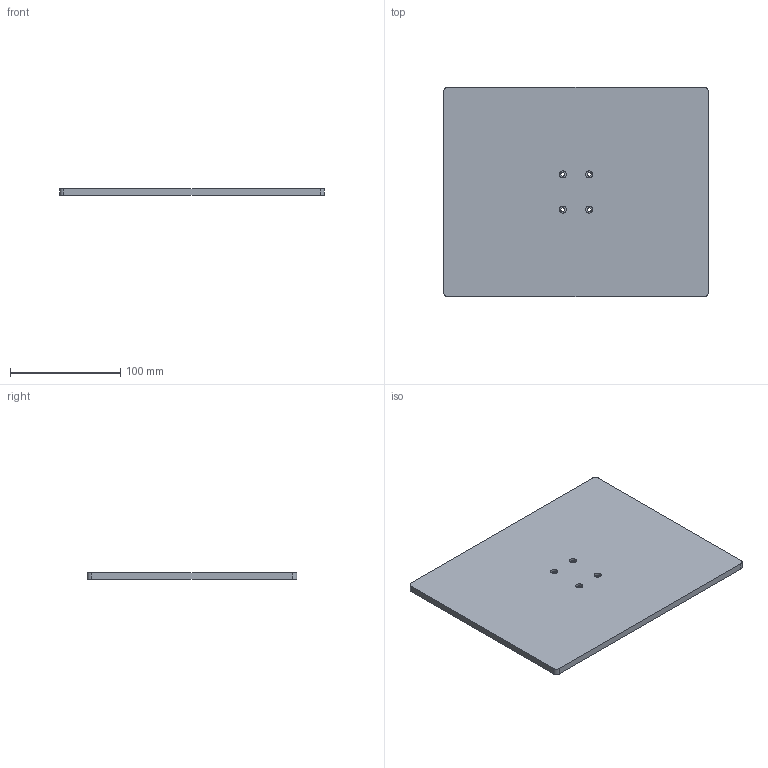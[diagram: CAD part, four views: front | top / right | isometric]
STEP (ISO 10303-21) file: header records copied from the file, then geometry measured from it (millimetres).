
FILE_DESCRIPTION(('Open CASCADE Model'),'2;1');
FILE_NAME('Open CASCADE Shape Model','2026-10-21T12:05:00',('Author'),( 'Open CASCADE'),'Open CASCADE STEP processor 7.9','Open CASCADE 7.9' ,'Unknown');
FILE_SCHEMA(('AUTOMOTIVE_DESIGN { 1 0 10303 214 1 1 1 1 }'));
Length unit declared in the file: millimetre
Products named in the file (1): Open CASCADE STEP translator 7.9 6
Bounding box: 240 x 190 x 6 mm (x, y, z)
Volume: 273087.3 mm3; surface area: 96561.8 mm2
Topology: 1 solids, 1 shells, 22 faces, 48 edges, 32 vertices
Faces by surface type: cylinder 12, plane 10
Full cylindrical faces by diameter (mm): 3.4 x4, 6.4 x4
Entity records: 1314 total; most frequent: CARTESIAN_POINT 295, DIRECTION 198, ORIENTED_EDGE 96, LINE 96, VECTOR 96, PCURVE 96, DEFINITIONAL_REPRESENTATION 96, EDGE_CURVE 48
